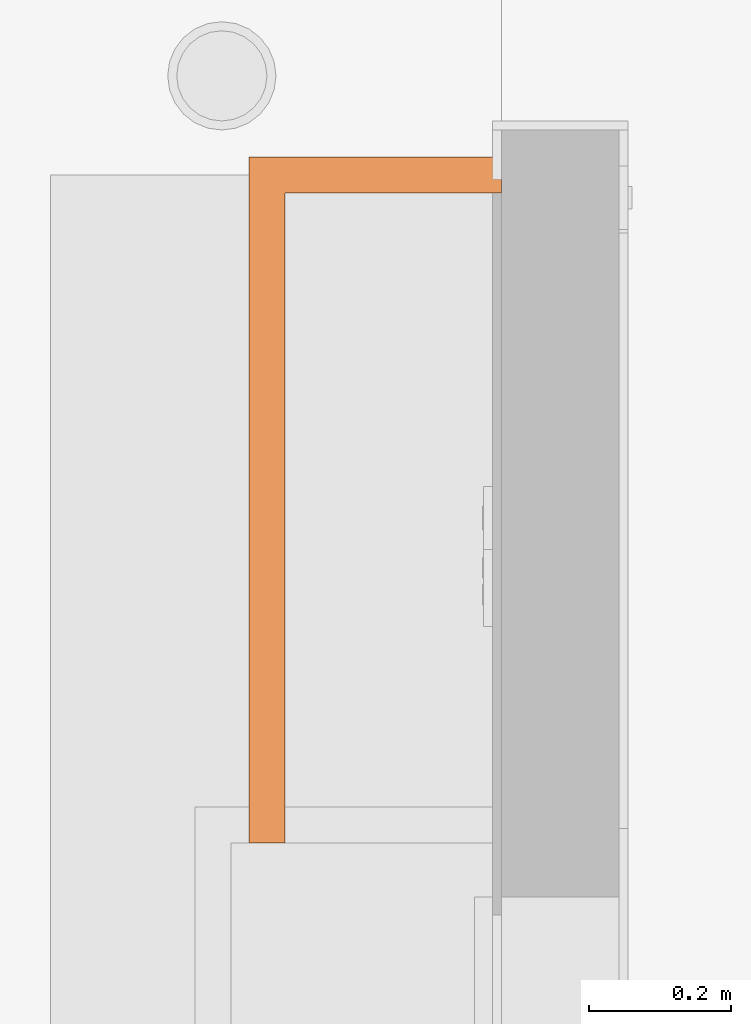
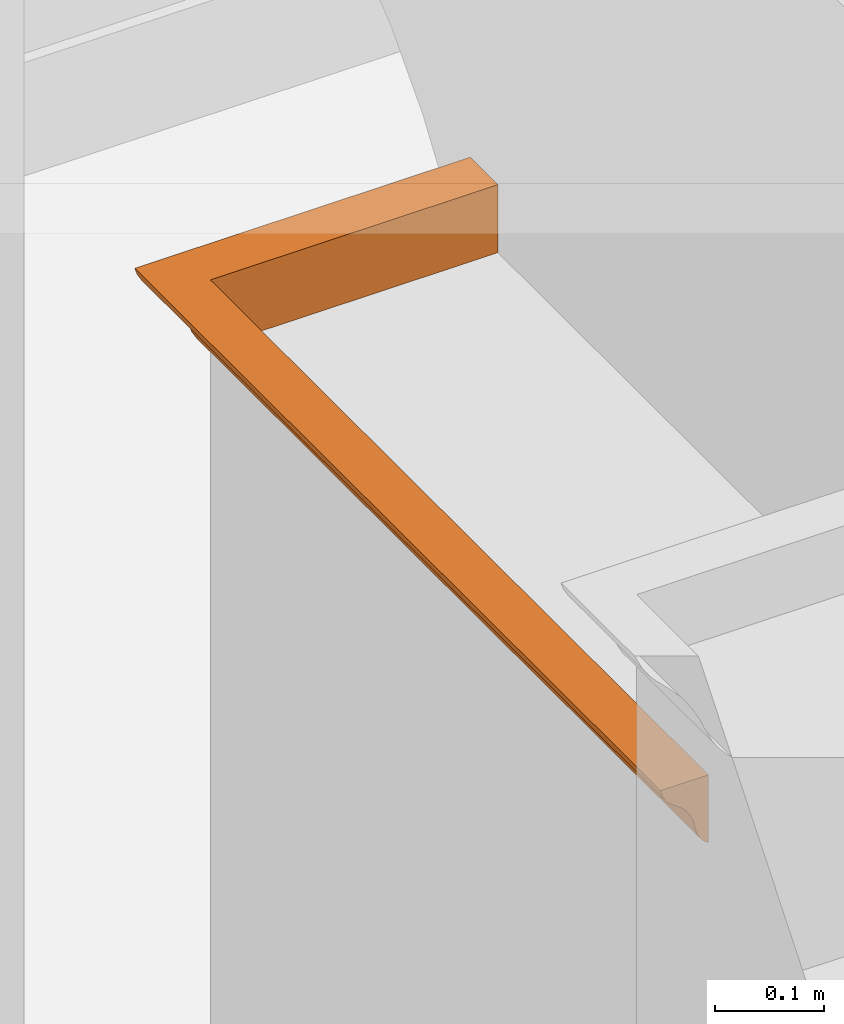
# One storey, part 75 of 81: 1 proxy.
"""IFC2X3 building model written with IfcOpenShell, lengths in feet."""

from ifc_helpers import new_model, entity, si_unit, converted_unit, derived_unit, direction, frame, origin, place, context, subcontext, project, spatial, faceted_brep, source, transform, mapped, material, type_object, type_shapes, element, save


model = new_model("IFC2X3")

# Units and contexts
model_context = context("Model", 3, precision=0.0001, world=origin(), true_north=direction((6.12303176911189e-17, 1.0)))
body_context = subcontext(model_context, "Body", "Model", "MODEL_VIEW")
ifc_project = project(units=[converted_unit("LENGTHUNIT", "FOOT", entity("IfcRatioMeasure", 0.3048), si_unit("LENGTHUNIT", "METRE"), dimensions=[1, 0, 0, 0, 0, 0, 0]), converted_unit("AREAUNIT", "SQUARE FOOT", entity("IfcRatioMeasure", 0.09290304), si_unit("AREAUNIT", "SQUARE_METRE"), dimensions=[2, 0, 0, 0, 0, 0, 0]), converted_unit("VOLUMEUNIT", "CUBIC FOOT", entity("IfcRatioMeasure", 0.028316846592), si_unit("VOLUMEUNIT", "CUBIC_METRE"), dimensions=[3, 0, 0, 0, 0, 0, 0]), converted_unit("PLANEANGLEUNIT", "DEGREE", entity("IfcRatioMeasure", 0.0174532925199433), si_unit("PLANEANGLEUNIT", "RADIAN"), dimensions=[0, 0, 0, 0, 0, 0, 0]), si_unit("MASSUNIT", "GRAM", prefix="KILO"), derived_unit("MASSDENSITYUNIT", [(si_unit("MASSUNIT", "GRAM", prefix="KILO"), 1), (si_unit("LENGTHUNIT", "METRE"), -3)]), derived_unit("MOMENTOFINERTIAUNIT", [(si_unit("LENGTHUNIT", "METRE"), 4)]), si_unit("TIMEUNIT", "SECOND"), si_unit("FREQUENCYUNIT", "HERTZ"), si_unit("THERMODYNAMICTEMPERATUREUNIT", "DEGREE_CELSIUS"), derived_unit("THERMALTRANSMITTANCEUNIT", [(si_unit("MASSUNIT", "GRAM", prefix="KILO"), 1), (si_unit("THERMODYNAMICTEMPERATUREUNIT", "KELVIN"), -1), (si_unit("TIMEUNIT", "SECOND"), -3)]), derived_unit("VOLUMETRICFLOWRATEUNIT", [(si_unit("LENGTHUNIT", "METRE"), 3), (si_unit("TIMEUNIT", "SECOND"), -1)]), si_unit("ELECTRICCURRENTUNIT", "AMPERE"), si_unit("ELECTRICVOLTAGEUNIT", "VOLT"), si_unit("POWERUNIT", "WATT"), si_unit("FORCEUNIT", "NEWTON"), si_unit("ILLUMINANCEUNIT", "LUX"), si_unit("LUMINOUSFLUXUNIT", "LUMEN"), si_unit("LUMINOUSINTENSITYUNIT", "CANDELA"), derived_unit("USERDEFINED", [(si_unit("MASSUNIT", "GRAM", prefix="KILO"), -1), (si_unit("LENGTHUNIT", "METRE"), -2), (si_unit("TIMEUNIT", "SECOND"), 3), (si_unit("LUMINOUSFLUXUNIT", "LUMEN"), 1)]), derived_unit("LINEARVELOCITYUNIT", [(si_unit("LENGTHUNIT", "METRE"), 1), (si_unit("TIMEUNIT", "SECOND"), -1)]), si_unit("PRESSUREUNIT", "PASCAL"), derived_unit("USERDEFINED", [(si_unit("LENGTHUNIT", "METRE"), -2), (si_unit("MASSUNIT", "GRAM", prefix="KILO"), 1), (si_unit("TIMEUNIT", "SECOND"), -2)]), derived_unit("LINEARFORCEUNIT", [(si_unit("MASSUNIT", "GRAM", prefix="KILO"), 1), (si_unit("LENGTHUNIT", "METRE"), 1), (si_unit("TIMEUNIT", "SECOND"), -2), (si_unit("LENGTHUNIT", "METRE"), -1)]), derived_unit("PLANARFORCEUNIT", [(si_unit("MASSUNIT", "GRAM", prefix="KILO"), 1), (si_unit("LENGTHUNIT", "METRE"), 1), (si_unit("TIMEUNIT", "SECOND"), -2), (si_unit("LENGTHUNIT", "METRE"), -2)])], contexts=[model_context])

# Site, building, storey
site_placement = place(None, origin())
site = spatial("IfcSite", under=ifc_project, at=site_placement, Name="Default", CompositionType="ELEMENT")
building_placement = place(site_placement, origin())
building = spatial("IfcBuilding", under=site, at=building_placement, CompositionType="ELEMENT")
storey_placement = place(building_placement, origin())
storey = spatial("IfcBuildingStorey", under=building, at=storey_placement, Name="First floor", CompositionType="ELEMENT", Elevation=0.0)

# Proxy
ifc_material = material(Name="Default New Material")
building_element_proxy_type = type_object("IfcBuildingElementProxyType", Name="Generic Models 31:Generic Models 28", PredefinedType="NOTDEFINED", material=ifc_material)
shared_shape = source(origin(), body_context, "Body", "Brep", [
    faceted_brep([(1.17190049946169, 3.01737449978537, 0.0179947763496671), (1.17190049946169, 3.03133511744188, 0.0344208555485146), (1.17190049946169, 3.04112818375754, 0.0536253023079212), (1.17190049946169, 3.04622501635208, 0.0745713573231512), (1.17190049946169, 3.05440824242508, 0.108201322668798), (1.17190049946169, 3.07013151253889, 0.139035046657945), (1.17190049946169, 3.09254600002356, 0.165407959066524), (1.17190049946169, 3.12044165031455, 0.185896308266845), (1.17190049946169, 3.13781615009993, 0.198657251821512), (1.17190049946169, 3.15177676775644, 0.215083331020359), (1.17190049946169, 3.1615698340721, 0.234287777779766), (1.17190049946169, 3.16666666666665, 0.255233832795), (1.17190049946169, 3.0, 0.255233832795), (1.17190049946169, 3.0, 0.00523383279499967), (0.17190049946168, 1.50000009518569, 0.00523383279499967), (0.15368492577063, 1.72444194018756, 0.0187880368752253), (0.171900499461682, 1.78160639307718, 0.00523383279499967), (0.140565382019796, 3.03133511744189, 0.0344208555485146), (0.134853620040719, 2.67158243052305, 0.0442426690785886), (0.130772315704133, 3.04112818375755, 0.0536253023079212), (0.140565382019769, 0.0, 0.0344208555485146), (0.130772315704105, 0.0, 0.0536253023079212), (0.135109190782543, 0.528376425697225, 0.0437376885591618), (0.1470670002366, 0.360940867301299, 0.0258009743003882), (0.171900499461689, 2.39080319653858, 0.00523383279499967), (0.158838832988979, 2.5431023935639, 0.0142195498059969), (0.171900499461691, 2.69540159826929, 0.00523383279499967), (0.132892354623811, 2.105388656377, 0.0484012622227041), (0.139851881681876, 1.85260848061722, 0.0355075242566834), (0.131354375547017, 1.69474467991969, 0.0520972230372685), (0.159154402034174, 0.456897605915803, 0.0139612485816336), (0.154525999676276, 0.0, 0.0179947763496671), (0.141441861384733, 1.50000000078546, 0.0331297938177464), (0.139954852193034, 1.16930933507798, 0.0353486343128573), (0.131099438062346, 1.27861589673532, 0.0527565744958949), (0.146284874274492, 2.47425940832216, 0.0267335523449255), (0.156071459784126, 2.11452469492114, 0.016587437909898), (0.135695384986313, 2.37867039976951, 0.0426073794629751), (0.12939040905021, 2.49689983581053, 0.0576297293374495), (0.125675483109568, 0.609196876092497, 0.0745713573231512), (0.128767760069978, 0.456897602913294, 0.0596566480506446), (0.125675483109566, 0.304598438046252, 0.0745713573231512), (0.1467184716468, 2.78028465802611, 0.0262134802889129), (0.154525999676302, 3.01737449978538, 0.0179947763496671), (0.171900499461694, 3.0, 0.00523383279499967), (0.171900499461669, 0.304598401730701, 0.00523383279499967), (0.171900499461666, 0.0, 0.00523383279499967), (0.171900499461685, 2.08620479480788, 0.00523383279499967), (0.14864257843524, 0.942073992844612, 0.023994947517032), (0.154809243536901, 1.34218264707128, 0.0177320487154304), (0.171900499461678, 1.21839360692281, 0.00523383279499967), (0.125675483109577, 1.52311269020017, 0.0745713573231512), (0.12567548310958, 1.54383085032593, 0.0745713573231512), (0.12567548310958, 1.98007041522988, 0.0745713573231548), (0.14208948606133, 2.17086638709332, 0.0322049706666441), (0.137832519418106, 0.842673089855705, 0.0387770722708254), (0.14960592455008, 0.648339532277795, 0.0229356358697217), (0.129844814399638, 0.843398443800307, 0.0562460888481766), (0.125675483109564, 0.0, 0.0745713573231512), (0.125675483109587, 2.74162657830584, 0.0745713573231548), (0.125675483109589, 3.0462250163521, 0.0745713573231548), (0.125675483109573, 0.771915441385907, 0.0745713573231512), (0.125675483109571, 1.06615496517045, 0.0745713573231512), (0.171900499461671, 0.609196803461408, 0.00523383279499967), (0.171900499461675, 0.913795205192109, 0.00523383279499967), (0.125675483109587, 2.29502793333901, 0.0745713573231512), (0.125675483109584, 2.4370281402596, 0.0745713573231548), (0.120984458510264, 2.59255579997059, 0.0975773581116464), (0.120301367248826, 2.11722295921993, 0.0998823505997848), (0.117492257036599, 3.05440824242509, 0.108201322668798), (0.110203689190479, 2.60279260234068, 0.124710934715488), (0.101768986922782, 3.0701315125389, 0.139035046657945), (0.0878550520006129, 1.43791538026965, 0.156820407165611), (0.110529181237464, 0.999542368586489, 0.124076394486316), (0.0913303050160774, 0.631613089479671, 0.152874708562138), (0.121190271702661, 0.456926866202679, 0.0968548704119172), (0.101768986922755, 0.0, 0.139035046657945), (0.110529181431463, 0.455823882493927, 0.12407639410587), (0.120393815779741, 0.914246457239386, 0.0995782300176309), (0.0904090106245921, 2.44194374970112, 0.15394833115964), (0.109812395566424, 2.05600767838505, 0.125464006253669), (0.051458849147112, 0.77191537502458, 0.185896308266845), (0.0746197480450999, 1.00328636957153, 0.169633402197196), (0.0711960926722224, 0.471920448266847, 0.172472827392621), (0.051458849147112, 0.91379514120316, 0.185896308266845), (0.0514588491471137, 1.21839358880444, 0.185896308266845), (0.0514588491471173, 1.56022082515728, 0.185896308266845), (0.0514588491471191, 1.57661079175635, 0.185896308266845), (0.117492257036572, 0.0, 0.108201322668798), (0.0734193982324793, 2.16402678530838, 0.170648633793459), (0.117181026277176, 1.53521685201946, 0.109032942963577), (0.0793544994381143, 3.09254600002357, 0.165407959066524), (0.0702151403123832, 2.64843443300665, 0.173255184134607), (0.0514588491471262, 2.34852627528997, 0.185896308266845), (0.0514588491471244, 2.51124495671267, 0.185896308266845), (0.051458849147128, 2.81584340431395, 0.185896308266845), (0.0514588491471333, 3.12044165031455, 0.185896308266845), (0.0793544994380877, 0.0, 0.165407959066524), (0.0514588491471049, 0.0, 0.185896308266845), (0.0915426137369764, 1.93583275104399, 0.152624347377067), (0.104449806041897, 1.59520617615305, 0.134865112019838), (0.0514588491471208, 1.90204806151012, 0.185896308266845), (0.0514588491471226, 2.20664650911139, 0.185896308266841), (0.0514588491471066, 0.304598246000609, 0.185896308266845), (0.0514588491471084, 0.609196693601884, 0.185896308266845), (0.020123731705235, 3.15177676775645, 0.215083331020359), (0.0144119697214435, 2.7920240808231, 0.22490514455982), (0.0103306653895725, 3.16156983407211, 0.234287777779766), (0.0201237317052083, 0.0, 0.215083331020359), (0.0103306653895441, 0.0, 0.234287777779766), (0.0146675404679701, 0.528376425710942, 0.224400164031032), (0.0266253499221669, 0.360940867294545, 0.206463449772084), (0.0383971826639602, 2.66354404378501, 0.194882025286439), (0.0111232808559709, 1.29796915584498, 0.232226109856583), (0.00523383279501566, 1.58333314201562, 0.255233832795), (0.0108252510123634, 1.71099427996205, 0.232984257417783), (0.038712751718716, 0.456897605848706, 0.19462372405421), (0.0340843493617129, 0.0, 0.198657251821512), (0.0195358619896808, 1.17430923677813, 0.215976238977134), (0.0173075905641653, 0.845456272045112, 0.219581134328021), (0.0189253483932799, 1.93015613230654, 0.216927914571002), (0.0214255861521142, 1.56022082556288, 0.213182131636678), (0.0258432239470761, 2.59470105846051, 0.207396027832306), (0.0165953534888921, 2.51220414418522, 0.220816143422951), (0.0262768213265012, 2.90072630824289, 0.206875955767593), (0.0340843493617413, 3.13781615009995, 0.198657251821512), (0.00523383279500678, 0.609196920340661, 0.255233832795), (0.00832610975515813, 0.456897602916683, 0.240319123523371), (0.005233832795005, 0.304598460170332, 0.255233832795), (0.00523383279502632, 2.8620678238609, 0.255233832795), (0.0331324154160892, 1.81716629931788, 0.199556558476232), (0.0358068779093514, 1.43036905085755, 0.197092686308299), (0.0356298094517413, 2.23496634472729, 0.197249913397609), (0.0282009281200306, 0.942073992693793, 0.204657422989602), (0.00523383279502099, 2.0704012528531, 0.255233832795), (0.00962196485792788, 2.53274029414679, 0.236267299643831), (0.0124507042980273, 2.22583030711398, 0.229063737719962), (0.0291642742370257, 0.648339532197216, 0.203598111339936), (0.00931789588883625, 0.85273093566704, 0.23716269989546), (0.0223228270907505, 2.2538071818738, 0.211928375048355), (0.00523383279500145, 0.0, 0.255233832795), (0.00523383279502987, 3.16666666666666, 0.255233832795), (0.00523383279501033, 1.09626503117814, 0.255233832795), (0.00523383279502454, 2.55746936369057, 0.255233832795), (0.171900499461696, 3.0, 0.255233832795), (0.171900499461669, 0.0, 0.255233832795), (0.476953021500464, 3.01318223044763, 0.0143188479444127), (0.663213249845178, 3.02483349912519, 0.0258009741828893), (0.43027329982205, 3.04622501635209, 0.0745713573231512), (0.734871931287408, 3.04622501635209, 0.0745713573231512), (0.773412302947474, 3.01339187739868, 0.0144923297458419), (0.67190068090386, 3.0, 0.00523383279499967), (0.689724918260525, 3.04241448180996, 0.0573324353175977), (0.648787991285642, 3.04622501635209, 0.0745713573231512), (0.862932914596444, 3.03679130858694, 0.0437376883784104), (0.503145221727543, 3.0370488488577, 0.0442465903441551), (0.644696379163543, 3.06137131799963, 0.124076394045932), (0.741902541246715, 3.05163857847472, 0.100011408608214), (0.562703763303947, 3.12044165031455, 0.185896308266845), (0.823374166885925, 3.12044165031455, 0.185896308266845), (0.867302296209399, 3.12044165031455, 0.185896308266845), (0.625627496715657, 3.08134046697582, 0.15377374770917), (0.570637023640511, 3.14604801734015, 0.207384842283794), (0.36951167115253, 3.1341864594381, 0.195449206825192), (0.715002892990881, 3.13412870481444, 0.195400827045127), (0.740866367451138, 3.16349297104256, 0.24004443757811), (0.309832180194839, 3.16666666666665, 0.255233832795), (0.614430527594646, 3.16666666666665, 0.255233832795), (0.867301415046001, 3.16666666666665, 0.255233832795), (0.79851372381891, 3.15723295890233, 0.224400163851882), (0.898316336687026, 3.14540588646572, 0.206617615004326), (0.377707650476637, 3.15748701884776, 0.224902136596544)], [[[0, 1, 2, 3, 4, 5, 6, 7, 8, 9, 10, 11, 12, 13]], [[14, 15, 16]], [[17, 18, 19]], [[20, 21, 22]], [[23, 20, 22]], [[24, 25, 26]], [[27, 28, 29]], [[30, 31, 23]], [[32, 33, 34]], [[35, 25, 36]], [[18, 37, 38]], [[39, 40, 41]], [[42, 17, 43]], [[43, 44, 26]], [[31, 45, 46]], [[38, 19, 18]], [[40, 21, 41]], [[36, 24, 47, 16]], [[42, 18, 17]], [[20, 23, 31]], [[48, 49, 50]], [[29, 51, 52, 53]], [[35, 54, 37]], [[34, 51, 29]], [[54, 36, 28]], [[32, 34, 29]], [[55, 56, 22]], [[22, 40, 57]], [[15, 49, 32]], [[57, 40, 39]], [[36, 25, 24]], [[26, 25, 43]], [[25, 35, 42]], [[32, 28, 15]], [[28, 32, 29]], [[21, 58, 41]], [[59, 60, 19]], [[57, 39, 61, 62]], [[21, 40, 22]], [[34, 57, 62]], [[55, 22, 57]], [[51, 34, 62]], [[55, 33, 48]], [[31, 30, 45]], [[63, 45, 30]], [[56, 30, 23]], [[22, 56, 23]], [[48, 64, 56]], [[38, 59, 19]], [[29, 53, 27]], [[54, 28, 27]], [[27, 53, 65, 66]], [[15, 36, 16]], [[36, 15, 28]], [[15, 14, 49]], [[63, 56, 64]], [[33, 49, 48]], [[37, 54, 27]], [[36, 54, 35]], [[38, 27, 66]], [[35, 37, 18]], [[27, 38, 37]], [[59, 38, 66]], [[34, 55, 57]], [[56, 55, 48]], [[34, 33, 55]], [[49, 33, 32]], [[25, 42, 43]], [[18, 42, 35]], [[48, 50, 64]], [[63, 30, 56]], [[14, 50, 49]], [[67, 65, 68]], [[69, 67, 70]], [[70, 71, 69]], [[72, 73, 74]], [[75, 61, 39, 41, 58]], [[76, 74, 77]], [[78, 75, 77]], [[79, 70, 80]], [[81, 82, 83]], [[82, 81, 84, 85, 86, 87]], [[76, 77, 88]], [[89, 72, 87]], [[68, 90, 80]], [[79, 91, 71]], [[92, 93, 94, 95, 96]], [[76, 97, 74]], [[60, 67, 69]], [[83, 97, 98]], [[90, 52, 78]], [[74, 97, 83]], [[92, 89, 93]], [[99, 72, 89]], [[90, 73, 100]], [[99, 100, 72]], [[71, 70, 79]], [[70, 67, 68]], [[88, 77, 75]], [[73, 77, 74]], [[80, 70, 68]], [[67, 60, 59, 66, 65]], [[90, 100, 80]], [[68, 65, 53, 52]], [[78, 77, 73]], [[90, 68, 52]], [[88, 75, 58]], [[78, 61, 75]], [[78, 52, 51, 62, 61]], [[78, 73, 90]], [[79, 80, 99]], [[72, 100, 73]], [[100, 99, 80]], [[79, 99, 89]], [[91, 79, 92]], [[89, 87, 101, 102, 93]], [[89, 92, 79]], [[91, 92, 96]], [[72, 74, 82]], [[83, 98, 103, 104, 81]], [[83, 82, 74]], [[72, 82, 87]], [[105, 106, 107]], [[108, 109, 110]], [[111, 108, 110]], [[94, 112, 95]], [[113, 114, 115]], [[116, 117, 111]], [[113, 118, 119]], [[115, 120, 121]], [[122, 123, 106]], [[124, 105, 125]], [[126, 127, 128]], [[125, 96, 95]], [[117, 103, 98]], [[106, 129, 107]], [[121, 130, 131]], [[127, 109, 128]], [[132, 94, 93, 102, 101]], [[124, 106, 105]], [[108, 111, 117]], [[133, 131, 85]], [[115, 114, 134]], [[123, 135, 106]], [[115, 134, 136]], [[122, 112, 132]], [[115, 121, 113]], [[119, 137, 110]], [[110, 127, 138]], [[133, 118, 131]], [[138, 127, 126]], [[132, 112, 94]], [[95, 112, 125]], [[112, 122, 124]], [[120, 130, 121]], [[132, 130, 139]], [[109, 140, 128]], [[129, 141, 107]], [[138, 126, 142]], [[109, 127, 110]], [[113, 138, 142]], [[119, 110, 138]], [[114, 113, 142]], [[119, 118, 133]], [[117, 116, 103]], [[104, 103, 116]], [[137, 116, 111]], [[110, 137, 111]], [[133, 84, 137]], [[106, 135, 129]], [[120, 115, 136]], [[139, 120, 136]], [[135, 134, 143, 129]], [[130, 132, 101]], [[130, 120, 139]], [[130, 86, 131]], [[112, 124, 125]], [[137, 84, 81, 104]], [[123, 136, 135]], [[122, 132, 139]], [[130, 101, 87, 86]], [[86, 85, 131]], [[106, 124, 122]], [[113, 119, 138]], [[137, 119, 133]], [[113, 121, 118]], [[131, 118, 121]], [[134, 135, 136]], [[122, 139, 123]], [[136, 123, 139]], [[133, 85, 84]], [[104, 116, 137]], [[44, 144, 145, 46, 45, 63, 64, 50, 14, 16, 47, 24, 26]], [[46, 145, 140, 109, 108, 117, 98, 97, 76, 88, 58, 21, 20, 31]], [[146, 43, 147]], [[19, 60, 148]], [[3, 2, 149]], [[150, 13, 151]], [[0, 147, 1]], [[152, 148, 153, 149]], [[154, 2, 1]], [[19, 155, 17]], [[152, 154, 155]], [[151, 146, 150]], [[155, 147, 17]], [[154, 147, 155]], [[155, 19, 148]], [[146, 44, 43]], [[152, 2, 154]], [[147, 154, 1]], [[148, 152, 155]], [[17, 147, 43]], [[2, 152, 149]], [[150, 146, 147]], [[44, 146, 151]], [[147, 0, 150]], [[13, 150, 0]], [[156, 5, 4]], [[60, 69, 157]], [[157, 156, 4]], [[91, 96, 158, 159]], [[6, 159, 160, 8, 7]], [[5, 156, 161]], [[71, 161, 156]], [[3, 157, 4]], [[6, 161, 159]], [[156, 69, 71]], [[161, 71, 91]], [[161, 91, 159]], [[157, 3, 149, 153, 148, 60]], [[161, 6, 5]], [[156, 157, 69]], [[162, 163, 105]], [[96, 125, 163]], [[164, 160, 159, 158]], [[165, 166, 167, 168]], [[169, 9, 170]], [[164, 8, 160]], [[163, 164, 158]], [[165, 10, 169]], [[10, 168, 11]], [[107, 141, 166]], [[10, 165, 168]], [[9, 169, 10]], [[170, 8, 164]], [[163, 162, 164]], [[171, 162, 105]], [[107, 166, 171]], [[169, 162, 171]], [[105, 107, 171]], [[164, 162, 170]], [[96, 163, 158]], [[163, 125, 105]], [[169, 170, 162]], [[8, 170, 9]], [[171, 166, 165]], [[171, 165, 169]], [[11, 168, 167, 166, 141, 129, 143, 134, 114, 142, 126, 128, 140, 145, 144, 12]], [[12, 144, 44, 151, 13]]]),
])
type_shapes(building_element_proxy_type, [shared_shape])
proxy_placement = place(storey_placement, frame((11.744766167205, 23.9163215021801, 18.494766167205)))
element("IfcBuildingElementProxy", 1, at=proxy_placement, inside=storey, type_object=building_element_proxy_type, material=ifc_material, Name="Generic Models 31:Generic Models 28", ObjectType="Generic Models 31:Generic Models 28", context=body_context, shape_type="MappedRepresentation", body=[
    mapped(shared_shape, transform((0.0, 0.0, 0.0), scale=1.0)),
])

save(model, "model.ifc")
